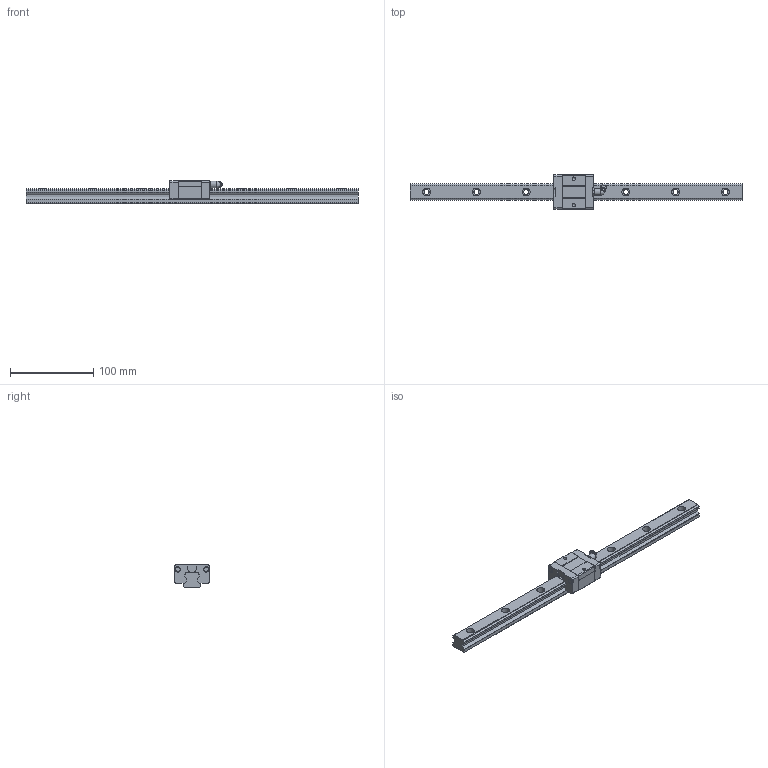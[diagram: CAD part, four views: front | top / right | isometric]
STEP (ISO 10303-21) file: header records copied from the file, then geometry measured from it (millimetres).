
FILE_DESCRIPTION((''),'2;1');
FILE_NAME('C:\Documents and Settings\土屋\My Documents\土屋移動用フォルダ\製品 (図面)\カタログ用3D\リニアガイド\LGS関連\LGS20S.stp','2012-12-13T10:58:40',('y'),(''),'Autodesk Inventor 11','Autodesk Inventor 11','');
FILE_SCHEMA(('AUTOMOTIVE_DESIGN { 1 0 10303 214 1 1 1 1 }'));
Length unit declared in the file: millimetre
Products named in the file (3): LGS20S(1); LGS20レール1
Assembly tree (2 placements, depth 2):
  LGS20S(1)
    LGS20レール1
    LGS20S(1)
Bounding box: 400 x 42 x 28 mm (x, y, z)
Volume: 148879.3 mm3; surface area: 44169.8 mm2
Topology: 2 solids, 2 shells, 158 faces, 415 edges, 274 vertices
Faces by surface type: plane 78, bspline 39, cylinder 36, sphere 3, cone 2
Full cylindrical faces by diameter (mm): 5.5 x2, 6.5 x2, 7 x1, 7.7 x1
Entity records: 5245 total; most frequent: CARTESIAN_POINT 1445, ORIENTED_EDGE 746, DIRECTION 744, EDGE_CURVE 373, VERTEX_POINT 269, AXIS2_PLACEMENT_3D 251, VECTOR 242, LINE 242
